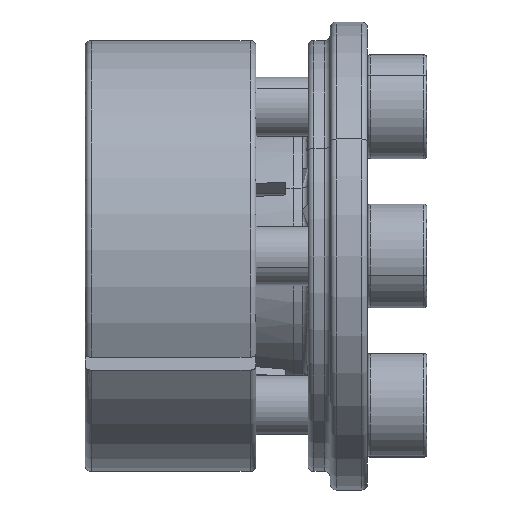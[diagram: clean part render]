
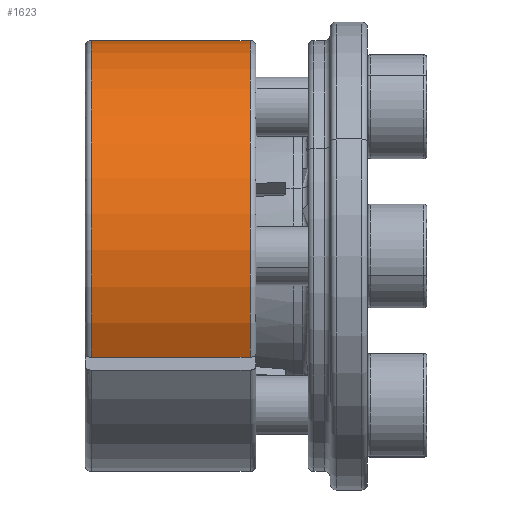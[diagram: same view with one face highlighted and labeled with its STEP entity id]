
A CAD part, front view. The second image highlights one B-rep face of the part: STEP entity #1623.
In plain terms, the highlighted cylindrical face has radius 14.5 mm (diameter 29 mm), a partial arc.
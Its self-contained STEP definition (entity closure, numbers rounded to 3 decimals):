
#193 = LINE ( 'NONE', #7771, #358 ) ;
#266 = VECTOR ( 'NONE', #3014, 1000. ) ;
#304 = LINE ( 'NONE', #8000, #266 ) ;
#358 = VECTOR ( 'NONE', #7852, 1000. ) ;
#393 = EDGE_LOOP ( 'NONE', ( #3822, #4061, #4034, #3770 ) ) ;
#543 = CIRCLE ( 'NONE', #1394, 14.5 ) ;
#582 = CIRCLE ( 'NONE', #7640, 14.5 ) ;
#794 = CYLINDRICAL_SURFACE ( 'NONE', #7563, 14.5 ) ;
#871 = FACE_OUTER_BOUND ( 'NONE', #393, .T. ) ;
#1394 = AXIS2_PLACEMENT_3D ( 'NONE', #2996, #3009, #2989 ) ;
#1623 = ADVANCED_FACE ( 'NONE', ( #871 ), #794, .T. ) ;
#2418 = EDGE_CURVE ( 'NONE', #6314, #6271, #582, .T. ) ;
#2463 = EDGE_CURVE ( 'NONE', #6441, #6271, #193, .T. ) ;
#2495 = EDGE_CURVE ( 'NONE', #6314, #6434, #304, .T. ) ;
#2497 = EDGE_CURVE ( 'NONE', #6434, #6441, #543, .T. ) ;
#2989 = DIRECTION ( 'NONE',  ( 0., 0., 1. ) ) ;
#2996 = CARTESIAN_POINT ( 'NONE',  ( 30.645, -8.448, 0. ) ) ;
#3009 = DIRECTION ( 'NONE',  ( -1., 0., 0. ) ) ;
#3014 = DIRECTION ( 'NONE',  ( 1., 0., 0. ) ) ;
#3601 = CARTESIAN_POINT ( 'NONE',  ( 30.645, -8.448, 14.5 ) ) ;
#3616 = CARTESIAN_POINT ( 'NONE',  ( 30.645, -21.248, -6.813 ) ) ;
#3767 = CARTESIAN_POINT ( 'NONE',  ( 19.945, -21.248, -6.813 ) ) ;
#3770 = ORIENTED_EDGE ( 'NONE', *, *, #2495, .T. ) ;
#3822 = ORIENTED_EDGE ( 'NONE', *, *, #2497, .T. ) ;
#3951 = CARTESIAN_POINT ( 'NONE',  ( 19.945, -8.448, 14.5 ) ) ;
#4034 = ORIENTED_EDGE ( 'NONE', *, *, #2418, .F. ) ;
#4061 = ORIENTED_EDGE ( 'NONE', *, *, #2463, .T. ) ;
#5212 = CARTESIAN_POINT ( 'NONE',  ( 18.295, -8.448, 0. ) ) ;
#5221 = DIRECTION ( 'NONE',  ( -1., 0., 0. ) ) ;
#5223 = DIRECTION ( 'NONE',  ( 0., 0., 1. ) ) ;
#6271 = VERTEX_POINT ( 'NONE', #3951 ) ;
#6314 = VERTEX_POINT ( 'NONE', #3767 ) ;
#6434 = VERTEX_POINT ( 'NONE', #3616 ) ;
#6441 = VERTEX_POINT ( 'NONE', #3601 ) ;
#7563 = AXIS2_PLACEMENT_3D ( 'NONE', #5212, #5221, #5223 ) ;
#7640 = AXIS2_PLACEMENT_3D ( 'NONE', #7960, #7958, #7819 ) ;
#7771 = CARTESIAN_POINT ( 'NONE',  ( 18.295, -8.448, 14.5 ) ) ;
#7819 = DIRECTION ( 'NONE',  ( 0., 0., 1. ) ) ;
#7852 = DIRECTION ( 'NONE',  ( -1., 0., 0. ) ) ;
#7958 = DIRECTION ( 'NONE',  ( -1., 0., 0. ) ) ;
#7960 = CARTESIAN_POINT ( 'NONE',  ( 19.945, -8.448, 0. ) ) ;
#8000 = CARTESIAN_POINT ( 'NONE',  ( 18.295, -21.248, -6.813 ) ) ;
